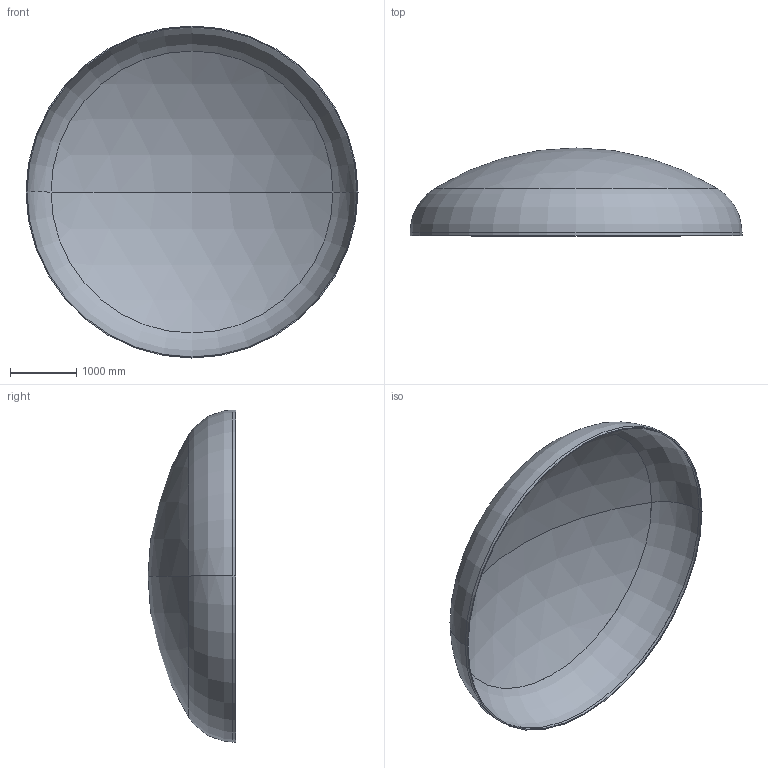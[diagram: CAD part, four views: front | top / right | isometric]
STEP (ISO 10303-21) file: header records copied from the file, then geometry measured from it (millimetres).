
FILE_DESCRIPTION (( 'STEP AP203' ), '1' );
FILE_NAME ('DIN 28013 Korbbogenform_-_Boden DIN 28013 - 5000 x 45 - I - s=15.step', '2016-07-02T00:07:44', ( '' ), ( '' ), 'SwSTEP 2.0', 'SolidWorks 2013', '' );
FILE_SCHEMA (( 'CONFIG_CONTROL_DESIGN' ));
Length unit declared in the file: millimetre
Products named in the file (1): DIN 28013 Korbbogenform_-_Boden DIN 28013 - 5000 x 45 - I - s=15
Bounding box: 5000 x 1322.91 x 5000 mm (x, y, z)
Volume: 416896818.1 mm3; surface area: 55821603.6 mm2
Topology: 1 solids, 1 shells, 13 faces, 24 edges, 14 vertices
Faces by surface type: torus 4, cylinder 4, sphere 4, plane 1
Entity records: 407 total; most frequent: DIRECTION 72, CARTESIAN_POINT 52, ORIENTED_EDGE 48, AXIS2_PLACEMENT_3D 34, EDGE_CURVE 24, CIRCLE 20, VERTEX_POINT 14, EDGE_LOOP 14
